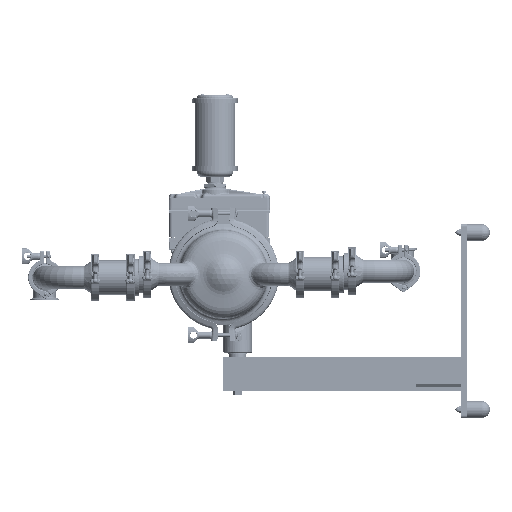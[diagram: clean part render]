
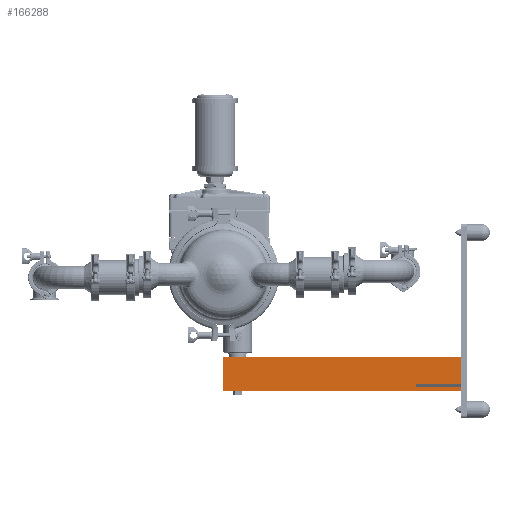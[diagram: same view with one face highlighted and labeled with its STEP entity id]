
A CAD part, left-side view. The second image highlights one B-rep face of the part: STEP entity #166288.
In plain terms, the highlighted planar face has unit normal (-1, 0, 0).
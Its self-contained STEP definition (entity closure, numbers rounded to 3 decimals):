
#3537 = VECTOR ( 'NONE', #252321, 39.37 ) ;
#7157 = LINE ( 'NONE', #515597, #342943 ) ;
#16634 = EDGE_CURVE ( 'NONE', #231259, #630729, #158607, .T. ) ;
#27966 = LINE ( 'NONE', #74828, #452178 ) ;
#31260 = DIRECTION ( 'NONE',  ( 0., 0., -1. ) ) ;
#35693 = CARTESIAN_POINT ( 'NONE',  ( -1., -20.822, -9.876 ) ) ;
#40277 = CARTESIAN_POINT ( 'NONE',  ( -1., -20.822, -10.236 ) ) ;
#50677 = ORIENTED_EDGE ( 'NONE', *, *, #134579, .F. ) ;
#50835 = CARTESIAN_POINT ( 'NONE',  ( -1., -20.822, -9.626 ) ) ;
#53580 = CARTESIAN_POINT ( 'NONE',  ( -1., 0.093, -10.236 ) ) ;
#54887 = CARTESIAN_POINT ( 'NONE',  ( -1., -20.822, -9.626 ) ) ;
#60465 = EDGE_CURVE ( 'NONE', #594980, #375312, #7157, .T. ) ;
#63040 = CARTESIAN_POINT ( 'NONE',  ( -1., -20.822, -9.876 ) ) ;
#65722 = EDGE_CURVE ( 'NONE', #523639, #260715, #603290, .T. ) ;
#70622 = EDGE_CURVE ( 'NONE', #523639, #231259, #27966, .T. ) ;
#74828 = CARTESIAN_POINT ( 'NONE',  ( -1., -20.822, -7.236 ) ) ;
#85945 = ORIENTED_EDGE ( 'NONE', *, *, #16634, .F. ) ;
#101398 = CARTESIAN_POINT ( 'NONE',  ( -1., 0.093, -10.236 ) ) ;
#108677 = VERTEX_POINT ( 'NONE', #124773 ) ;
#110211 = CARTESIAN_POINT ( 'NONE',  ( -1., -20.822, -7.236 ) ) ;
#124773 = CARTESIAN_POINT ( 'NONE',  ( -1., -16.822, -9.876 ) ) ;
#134579 = EDGE_CURVE ( 'NONE', #630729, #108677, #589593, .T. ) ;
#139121 = CARTESIAN_POINT ( 'NONE',  ( -1., 0.093, -7.236 ) ) ;
#143740 = AXIS2_PLACEMENT_3D ( 'NONE', #187823, #388484, #395078 ) ;
#148333 = LINE ( 'NONE', #101398, #358633 ) ;
#154639 = EDGE_LOOP ( 'NONE', ( #481566, #496119, #50677, #85945, #610787, #344188, #556125, #451271 ) ) ;
#158607 = LINE ( 'NONE', #54887, #3537 ) ;
#166288 = ADVANCED_FACE ( 'NONE', ( #595923 ), #642788, .T. ) ;
#187823 = CARTESIAN_POINT ( 'NONE',  ( -1., -0.157, -7.236 ) ) ;
#231259 = VERTEX_POINT ( 'NONE', #50835 ) ;
#252321 = DIRECTION ( 'NONE',  ( 0., 1., 0. ) ) ;
#260715 = VERTEX_POINT ( 'NONE', #139121 ) ;
#266167 = VERTEX_POINT ( 'NONE', #53580 ) ;
#342943 = VECTOR ( 'NONE', #616016, 39.37 ) ;
#344188 = ORIENTED_EDGE ( 'NONE', *, *, #65722, .T. ) ;
#358633 = VECTOR ( 'NONE', #506205, 39.37 ) ;
#358805 = DIRECTION ( 'NONE',  ( 0., 1., 0. ) ) ;
#375312 = VERTEX_POINT ( 'NONE', #40277 ) ;
#388484 = DIRECTION ( 'NONE',  ( -1., 0., 0. ) ) ;
#395078 = DIRECTION ( 'NONE',  ( 0., 0., 1. ) ) ;
#400085 = VECTOR ( 'NONE', #542379, 39.37 ) ;
#403849 = EDGE_CURVE ( 'NONE', #266167, #260715, #148333, .T. ) ;
#406492 = VECTOR ( 'NONE', #435669, 39.37 ) ;
#417631 = DIRECTION ( 'NONE',  ( 0., 1., 0. ) ) ;
#423239 = VECTOR ( 'NONE', #358805, 39.37 ) ;
#427662 = VECTOR ( 'NONE', #417631, 39.37 ) ;
#435669 = DIRECTION ( 'NONE',  ( 0., 0., -1. ) ) ;
#451271 = ORIENTED_EDGE ( 'NONE', *, *, #541086, .F. ) ;
#452178 = VECTOR ( 'NONE', #31260, 39.37 ) ;
#459246 = CARTESIAN_POINT ( 'NONE',  ( -1., -20.822, -7.236 ) ) ;
#481566 = ORIENTED_EDGE ( 'NONE', *, *, #60465, .F. ) ;
#492227 = CARTESIAN_POINT ( 'NONE',  ( -1., -20.822, -10.236 ) ) ;
#496119 = ORIENTED_EDGE ( 'NONE', *, *, #566693, .T. ) ;
#501559 = CARTESIAN_POINT ( 'NONE',  ( -1., -16.822, -9.626 ) ) ;
#506205 = DIRECTION ( 'NONE',  ( 0., 0., 1. ) ) ;
#515597 = CARTESIAN_POINT ( 'NONE',  ( -1., -20.822, -9.876 ) ) ;
#523639 = VERTEX_POINT ( 'NONE', #110211 ) ;
#535794 = LINE ( 'NONE', #492227, #400085 ) ;
#541086 = EDGE_CURVE ( 'NONE', #375312, #266167, #535794, .T. ) ;
#542379 = DIRECTION ( 'NONE',  ( 0., 1., 0. ) ) ;
#556125 = ORIENTED_EDGE ( 'NONE', *, *, #403849, .F. ) ;
#565435 = CARTESIAN_POINT ( 'NONE',  ( -1., -16.822, -9.626 ) ) ;
#566693 = EDGE_CURVE ( 'NONE', #594980, #108677, #618442, .T. ) ;
#589593 = LINE ( 'NONE', #501559, #406492 ) ;
#594980 = VERTEX_POINT ( 'NONE', #35693 ) ;
#595923 = FACE_OUTER_BOUND ( 'NONE', #154639, .T. ) ;
#603290 = LINE ( 'NONE', #459246, #423239 ) ;
#610787 = ORIENTED_EDGE ( 'NONE', *, *, #70622, .F. ) ;
#616016 = DIRECTION ( 'NONE',  ( 0., 0., -1. ) ) ;
#618442 = LINE ( 'NONE', #63040, #427662 ) ;
#630729 = VERTEX_POINT ( 'NONE', #565435 ) ;
#642788 = PLANE ( 'NONE',  #143740 ) ;
